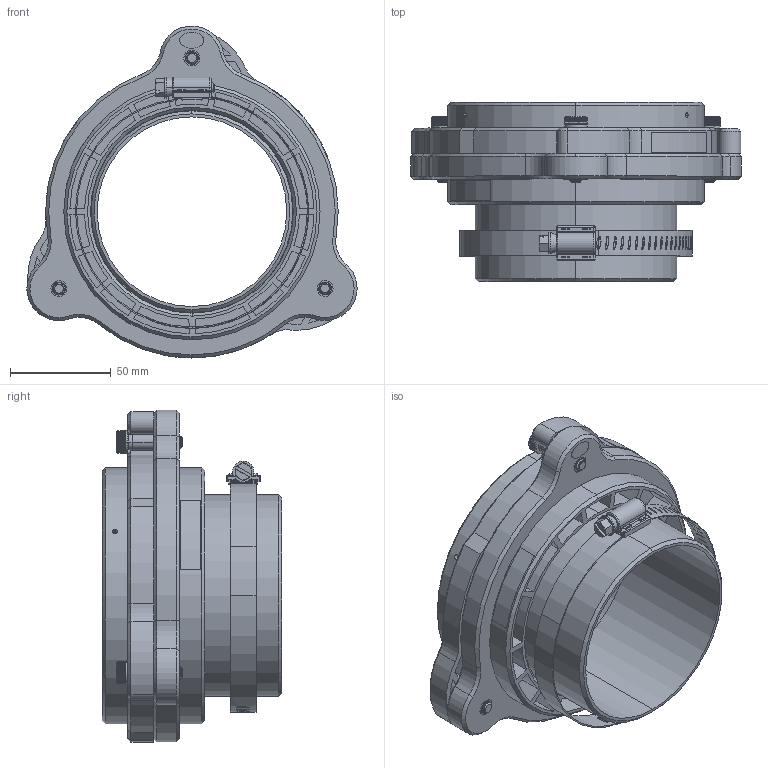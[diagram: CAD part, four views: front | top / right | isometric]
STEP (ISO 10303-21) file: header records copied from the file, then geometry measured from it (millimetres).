
FILE_DESCRIPTION (( 'STEP AP214' ), '1' );
FILE_NAME ('80001558.STEP', '2023-11-09T15:38:56', ( '' ), ( '' ), 'SwSTEP 2.0', 'SolidWorks 2022', '' );
FILE_SCHEMA (( 'AUTOMOTIVE_DESIGN' ));
Length unit declared in the file: millimetre
Products named in the file (16): 600528; 400301; 1802129_1802129; 600529; 1802123_1802123; 1802181; 7050531; 80001558; 600527; 80001565; 1001309; 1802185_1802185; 80001564; 1001312_Quicklox Hose Plate; 190476; 1001312_Quicklox Tool Plate
Assembly tree (24 placements, depth 4):
  80001558
    80001564
      600527
      1802185_1802185  x3
      190476  x3
      1001309
      1001312_Quicklox Tool Plate
    80001565
      7050531
        600528
        1802181  x3
      1802123_1802123  x3
      400301
      600529
      1802129_1802129
      1001309
      1001312_Quicklox Hose Plate
Bounding box: 163.64 x 88.9 x 164.53 mm (x, y, z)
Volume: 298691.3 mm3; surface area: 196630.7 mm2
Topology: 24 solids, 24 shells, 2531 faces, 6642 edges, 4238 vertices
Faces by surface type: plane 1006, cylinder 757, cone 653, bspline 77, torus 33, sphere 5
Entity records: 60062 total; most frequent: CARTESIAN_POINT 20804, ORIENTED_EDGE 8454, DIRECTION 7431, EDGE_CURVE 4227, VERTEX_POINT 2730, AXIS2_PLACEMENT_3D 2687, VECTOR 2057, LINE 2057
